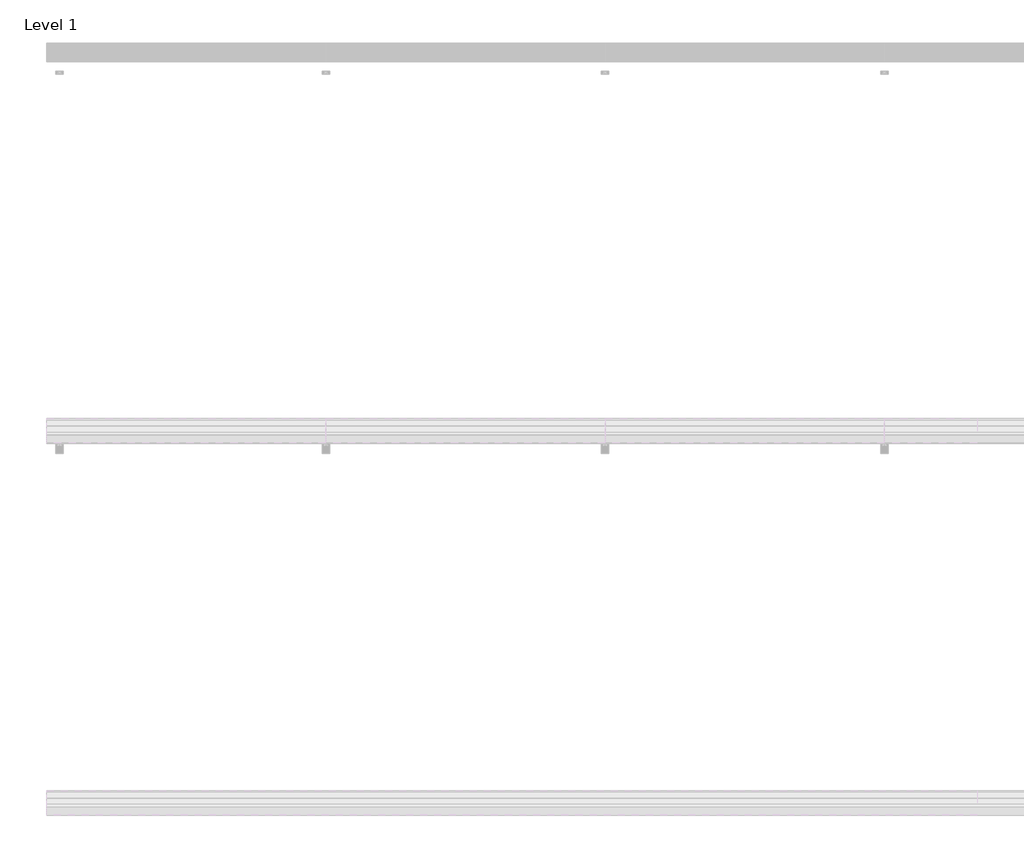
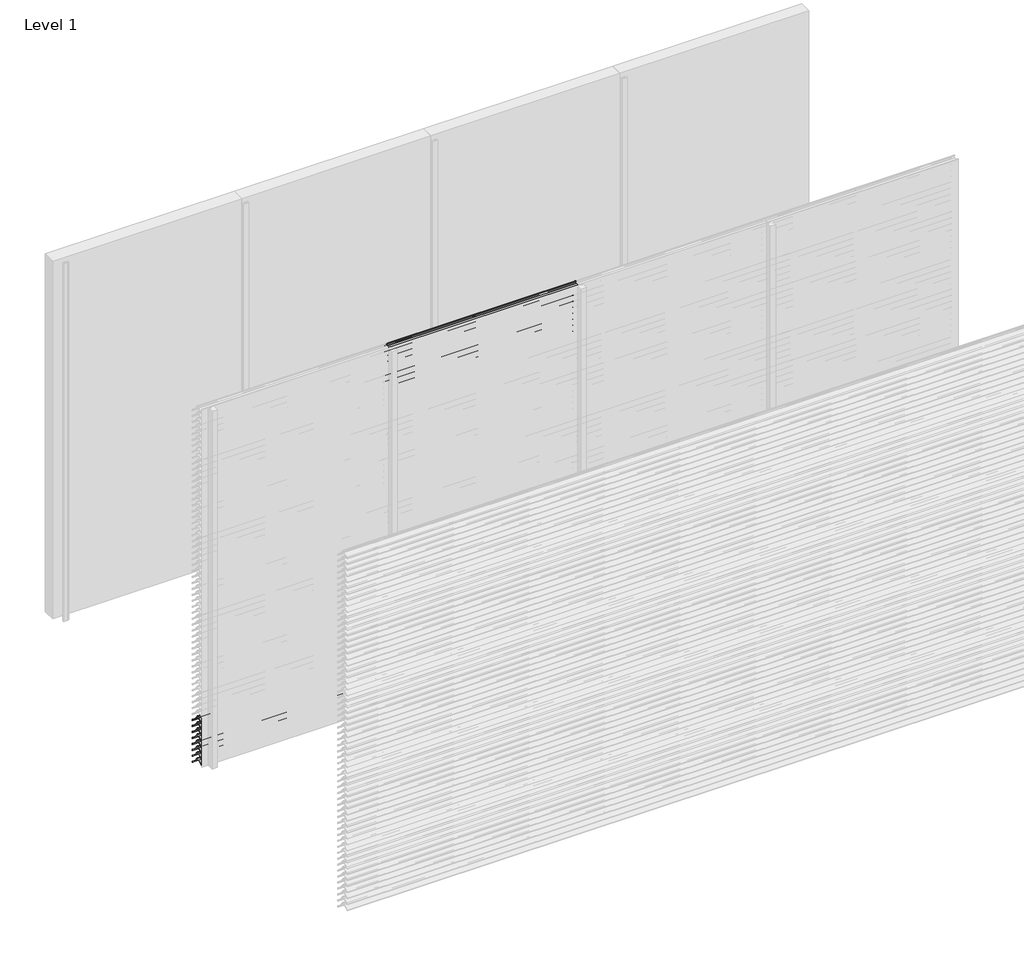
# One storey, part 78 of 173: 18 proxies.
"""IFC4 building model written with IfcOpenShell, lengths in millimetres."""

from ifc_helpers import new_model, si_unit, point, frame, frame_2d, origin, place, context, project, spatial, polyline, circle_curve, trimmed, segment, composite_curve, outline, extrude, element, save

model = new_model("IFC4")

# Units and contexts
model_context = context("Model", 3, world=origin())
ifc_project = project(units=[si_unit("LENGTHUNIT", "METRE", prefix="MILLI")], contexts=[model_context])

# Site, building, storey
site = spatial("IfcSite", under=ifc_project)
building = spatial("IfcBuilding", under=site)
storey = spatial("IfcBuildingStorey", under=building, Name="Level 1", Elevation=0.0)

# Proxies
placement = place(None, origin())
element("IfcBuildingElementProxy", 1, Name="Wall Sweeps", at=placement, inside=storey, context=model_context, shape_type="SweptSolid", body=[
    extrude(outline(composite_curve([segment(polyline([(-29998.0, 359.1474905), (-29998.0, 361.6227417)]), True, "CONTINUOUS"), segment(trimmed(circle_curve(frame_2d((-29951.2682172, 316.2200208)), 65.1557103), [point((-29998.0, 361.6227417))], [point((-29954.4014323, 381.3003524))], False, "CARTESIAN"), True, "CONTINUOUS"), segment(polyline([(-29954.4014323, 381.3003524), (-29934.8315836, 381.3003524)]), True, "CONTINUOUS"), segment(trimmed(circle_curve(frame_2d((-29732.7329489, 528.5533172)), 250.0545817), [point((-29934.8315836, 381.3003524))], [point((-29941.4452143, 390.8344583))], False, "CARTESIAN"), True, "CONTINUOUS"), segment(trimmed(circle_curve(frame_2d((-29953.2981792, 385.1737835)), 13.1352966), [point((-29941.4452143, 390.8344583))], [point((-29953.8171475, 398.298824))], True, "CARTESIAN"), True, "CONTINUOUS"), segment(polyline([(-29953.8171475, 398.298824), (-29953.8171475, 400.0)]), True, "CONTINUOUS"), segment(trimmed(circle_curve(frame_2d((-29953.2981792, 385.1737835)), 14.8352966), [point((-29953.8171475, 400.0))], [point((-29939.9637661, 391.6760487))], False, "CARTESIAN"), True, "CONTINUOUS"), segment(trimmed(circle_curve(frame_2d((-29732.7329489, 528.5533172)), 248.3545817), [point((-29939.9637661, 391.6760487))], [point((-29873.8787895, 324.2059416))], True, "CARTESIAN"), True, "CONTINUOUS"), segment(trimmed(circle_curve(frame_2d((-29883.8147537, 311.6649442)), 16.0), [point((-29873.8787895, 324.2059416))], [point((-29867.8648347, 310.4))], False, "CARTESIAN"), True, "CONTINUOUS"), segment(polyline([(-29867.8648347, 310.4), (-29869.6712069, 310.4)]), True, "CONTINUOUS"), segment(trimmed(circle_curve(frame_2d((-29883.8147537, 311.6649442)), 14.2), [point((-29869.6712069, 310.4))], [point((-29874.9518628, 322.7594998))], True, "CARTESIAN"), True, "CONTINUOUS"), segment(trimmed(circle_curve(frame_2d((-29732.7329489, 528.5533172)), 250.1545817), [point((-29874.9518628, 322.7594998))], [point((-29933.7064024, 379.6003524))], False, "CARTESIAN"), True, "CONTINUOUS"), segment(polyline([(-29933.7064024, 379.6003524), (-29954.3602632, 379.6003524)]), True, "CONTINUOUS"), segment(trimmed(circle_curve(frame_2d((-29951.2682172, 316.2200208)), 63.4557103), [point((-29954.3602632, 379.6003524))], [point((-29998.0, 359.1474905))], True, "CARTESIAN"), True, "CONTINUOUS")], self_intersect=False)), frame((0.0, 0.0, 0.0), z_axis=(1.0, 0.0, 0.0), x_axis=(0.0, 1.0, 0.0)), (0.0, 0.0, 1.0), 1500.0),
])
element("IfcBuildingElementProxy", 2, Name="Wall Sweeps", at=placement, inside=storey, context=model_context, shape_type="SweptSolid", body=[
    extrude(outline(composite_curve([segment(polyline([(-29998.0, 309.1474905), (-29998.0, 311.6227417)]), True, "CONTINUOUS"), segment(trimmed(circle_curve(frame_2d((-29951.2682172, 266.2200208)), 65.1557103), [point((-29998.0, 311.6227417))], [point((-29954.4014323, 331.3003524))], False, "CARTESIAN"), True, "CONTINUOUS"), segment(polyline([(-29954.4014323, 331.3003524), (-29934.8315836, 331.3003524)]), True, "CONTINUOUS"), segment(trimmed(circle_curve(frame_2d((-29732.7329489, 478.5533172)), 250.0545817), [point((-29934.8315836, 331.3003524))], [point((-29941.4452143, 340.8344583))], False, "CARTESIAN"), True, "CONTINUOUS"), segment(trimmed(circle_curve(frame_2d((-29953.2981792, 335.1737835)), 13.1352966), [point((-29941.4452143, 340.8344583))], [point((-29953.8171475, 348.298824))], True, "CARTESIAN"), True, "CONTINUOUS"), segment(polyline([(-29953.8171475, 348.298824), (-29953.8171475, 350.0)]), True, "CONTINUOUS"), segment(trimmed(circle_curve(frame_2d((-29953.2981792, 335.1737835)), 14.8352966), [point((-29953.8171475, 350.0))], [point((-29939.9637661, 341.6760487))], False, "CARTESIAN"), True, "CONTINUOUS"), segment(trimmed(circle_curve(frame_2d((-29732.7329489, 478.5533172)), 248.3545817), [point((-29939.9637661, 341.6760487))], [point((-29873.8787895, 274.2059416))], True, "CARTESIAN"), True, "CONTINUOUS"), segment(trimmed(circle_curve(frame_2d((-29883.8147537, 261.6649442)), 16.0), [point((-29873.8787895, 274.2059416))], [point((-29867.8648347, 260.4))], False, "CARTESIAN"), True, "CONTINUOUS"), segment(polyline([(-29867.8648347, 260.4), (-29869.6712069, 260.4)]), True, "CONTINUOUS"), segment(trimmed(circle_curve(frame_2d((-29883.8147537, 261.6649442)), 14.2), [point((-29869.6712069, 260.4))], [point((-29874.9518628, 272.7594998))], True, "CARTESIAN"), True, "CONTINUOUS"), segment(trimmed(circle_curve(frame_2d((-29732.7329489, 478.5533172)), 250.1545817), [point((-29874.9518628, 272.7594998))], [point((-29933.7064024, 329.6003524))], False, "CARTESIAN"), True, "CONTINUOUS"), segment(polyline([(-29933.7064024, 329.6003524), (-29954.3602632, 329.6003524)]), True, "CONTINUOUS"), segment(trimmed(circle_curve(frame_2d((-29951.2682172, 266.2200208)), 63.4557103), [point((-29954.3602632, 329.6003524))], [point((-29998.0, 309.1474905))], True, "CARTESIAN"), True, "CONTINUOUS")], self_intersect=False)), frame((0.0, 0.0, 0.0), z_axis=(1.0, 0.0, 0.0), x_axis=(0.0, 1.0, 0.0)), (0.0, 0.0, 1.0), 1500.0),
])
element("IfcBuildingElementProxy", 3, Name="Wall Sweeps", at=placement, inside=storey, context=model_context, shape_type="SweptSolid", body=[
    extrude(outline(composite_curve([segment(polyline([(-29998.0, 259.1474905), (-29998.0, 261.6227417)]), True, "CONTINUOUS"), segment(trimmed(circle_curve(frame_2d((-29951.2682172, 216.2200208)), 65.1557103), [point((-29998.0, 261.6227417))], [point((-29954.4014323, 281.3003524))], False, "CARTESIAN"), True, "CONTINUOUS"), segment(polyline([(-29954.4014323, 281.3003524), (-29934.8315836, 281.3003524)]), True, "CONTINUOUS"), segment(trimmed(circle_curve(frame_2d((-29732.7329489, 428.5533172)), 250.0545817), [point((-29934.8315836, 281.3003524))], [point((-29941.4452143, 290.8344583))], False, "CARTESIAN"), True, "CONTINUOUS"), segment(trimmed(circle_curve(frame_2d((-29953.2981792, 285.1737835)), 13.1352966), [point((-29941.4452143, 290.8344583))], [point((-29953.8171475, 298.298824))], True, "CARTESIAN"), True, "CONTINUOUS"), segment(polyline([(-29953.8171475, 298.298824), (-29953.8171475, 300.0)]), True, "CONTINUOUS"), segment(trimmed(circle_curve(frame_2d((-29953.2981792, 285.1737835)), 14.8352966), [point((-29953.8171475, 300.0))], [point((-29939.9637661, 291.6760487))], False, "CARTESIAN"), True, "CONTINUOUS"), segment(trimmed(circle_curve(frame_2d((-29732.7329489, 428.5533172)), 248.3545817), [point((-29939.9637661, 291.6760487))], [point((-29873.8787895, 224.2059416))], True, "CARTESIAN"), True, "CONTINUOUS"), segment(trimmed(circle_curve(frame_2d((-29883.8147537, 211.6649442)), 16.0), [point((-29873.8787895, 224.2059416))], [point((-29867.8648347, 210.4))], False, "CARTESIAN"), True, "CONTINUOUS"), segment(polyline([(-29867.8648347, 210.4), (-29869.6712069, 210.4)]), True, "CONTINUOUS"), segment(trimmed(circle_curve(frame_2d((-29883.8147537, 211.6649442)), 14.2), [point((-29869.6712069, 210.4))], [point((-29874.9518628, 222.7594998))], True, "CARTESIAN"), True, "CONTINUOUS"), segment(trimmed(circle_curve(frame_2d((-29732.7329489, 428.5533172)), 250.1545817), [point((-29874.9518628, 222.7594998))], [point((-29933.7064024, 279.6003524))], False, "CARTESIAN"), True, "CONTINUOUS"), segment(polyline([(-29933.7064024, 279.6003524), (-29954.3602632, 279.6003524)]), True, "CONTINUOUS"), segment(trimmed(circle_curve(frame_2d((-29951.2682172, 216.2200208)), 63.4557103), [point((-29954.3602632, 279.6003524))], [point((-29998.0, 259.1474905))], True, "CARTESIAN"), True, "CONTINUOUS")], self_intersect=False)), frame((0.0, 0.0, 0.0), z_axis=(1.0, 0.0, 0.0), x_axis=(0.0, 1.0, 0.0)), (0.0, 0.0, 1.0), 1500.0),
])
element("IfcBuildingElementProxy", 4, Name="Wall Sweeps", at=placement, inside=storey, context=model_context, shape_type="SweptSolid", body=[
    extrude(outline(composite_curve([segment(polyline([(-29998.0, 209.1474905), (-29998.0, 211.6227417)]), True, "CONTINUOUS"), segment(trimmed(circle_curve(frame_2d((-29951.2682172, 166.2200208)), 65.1557103), [point((-29998.0, 211.6227417))], [point((-29954.4014323, 231.3003524))], False, "CARTESIAN"), True, "CONTINUOUS"), segment(polyline([(-29954.4014323, 231.3003524), (-29934.8315836, 231.3003524)]), True, "CONTINUOUS"), segment(trimmed(circle_curve(frame_2d((-29732.7329489, 378.5533172)), 250.0545817), [point((-29934.8315836, 231.3003524))], [point((-29941.4452143, 240.8344583))], False, "CARTESIAN"), True, "CONTINUOUS"), segment(trimmed(circle_curve(frame_2d((-29953.2981792, 235.1737835)), 13.1352966), [point((-29941.4452143, 240.8344583))], [point((-29953.8171475, 248.298824))], True, "CARTESIAN"), True, "CONTINUOUS"), segment(polyline([(-29953.8171475, 248.298824), (-29953.8171475, 250.0)]), True, "CONTINUOUS"), segment(trimmed(circle_curve(frame_2d((-29953.2981792, 235.1737835)), 14.8352966), [point((-29953.8171475, 250.0))], [point((-29939.9637661, 241.6760487))], False, "CARTESIAN"), True, "CONTINUOUS"), segment(trimmed(circle_curve(frame_2d((-29732.7329489, 378.5533172)), 248.3545817), [point((-29939.9637661, 241.6760487))], [point((-29873.8787895, 174.2059416))], True, "CARTESIAN"), True, "CONTINUOUS"), segment(trimmed(circle_curve(frame_2d((-29883.8147537, 161.6649442)), 16.0), [point((-29873.8787895, 174.2059416))], [point((-29867.8648347, 160.4))], False, "CARTESIAN"), True, "CONTINUOUS"), segment(polyline([(-29867.8648347, 160.4), (-29869.6712069, 160.4)]), True, "CONTINUOUS"), segment(trimmed(circle_curve(frame_2d((-29883.8147537, 161.6649442)), 14.2), [point((-29869.6712069, 160.4))], [point((-29874.9518628, 172.7594998))], True, "CARTESIAN"), True, "CONTINUOUS"), segment(trimmed(circle_curve(frame_2d((-29732.7329489, 378.5533172)), 250.1545817), [point((-29874.9518628, 172.7594998))], [point((-29933.7064024, 229.6003524))], False, "CARTESIAN"), True, "CONTINUOUS"), segment(polyline([(-29933.7064024, 229.6003524), (-29954.3602632, 229.6003524)]), True, "CONTINUOUS"), segment(trimmed(circle_curve(frame_2d((-29951.2682172, 166.2200208)), 63.4557103), [point((-29954.3602632, 229.6003524))], [point((-29998.0, 209.1474905))], True, "CARTESIAN"), True, "CONTINUOUS")], self_intersect=False)), frame((0.0, 0.0, 0.0), z_axis=(1.0, 0.0, 0.0), x_axis=(0.0, 1.0, 0.0)), (0.0, 0.0, 1.0), 1500.0),
])
element("IfcBuildingElementProxy", 5, Name="Wall Sweeps", at=placement, inside=storey, context=model_context, shape_type="SweptSolid", body=[
    extrude(outline(composite_curve([segment(polyline([(-29998.0, 159.1474905), (-29998.0, 161.6227417)]), True, "CONTINUOUS"), segment(trimmed(circle_curve(frame_2d((-29951.2682172, 116.2200208)), 65.1557103), [point((-29998.0, 161.6227417))], [point((-29954.4014323, 181.3003524))], False, "CARTESIAN"), True, "CONTINUOUS"), segment(polyline([(-29954.4014323, 181.3003524), (-29934.8315836, 181.3003524)]), True, "CONTINUOUS"), segment(trimmed(circle_curve(frame_2d((-29732.7329489, 328.5533172)), 250.0545817), [point((-29934.8315836, 181.3003524))], [point((-29941.4452143, 190.8344583))], False, "CARTESIAN"), True, "CONTINUOUS"), segment(trimmed(circle_curve(frame_2d((-29953.2981792, 185.1737835)), 13.1352966), [point((-29941.4452143, 190.8344583))], [point((-29953.8171475, 198.298824))], True, "CARTESIAN"), True, "CONTINUOUS"), segment(polyline([(-29953.8171475, 198.298824), (-29953.8171475, 200.0)]), True, "CONTINUOUS"), segment(trimmed(circle_curve(frame_2d((-29953.2981792, 185.1737835)), 14.8352966), [point((-29953.8171475, 200.0))], [point((-29939.9637661, 191.6760487))], False, "CARTESIAN"), True, "CONTINUOUS"), segment(trimmed(circle_curve(frame_2d((-29732.7329489, 328.5533172)), 248.3545817), [point((-29939.9637661, 191.6760487))], [point((-29873.8787895, 124.2059416))], True, "CARTESIAN"), True, "CONTINUOUS"), segment(trimmed(circle_curve(frame_2d((-29883.8147537, 111.6649442)), 16.0), [point((-29873.8787895, 124.2059416))], [point((-29867.8648347, 110.4))], False, "CARTESIAN"), True, "CONTINUOUS"), segment(polyline([(-29867.8648347, 110.4), (-29869.6712069, 110.4)]), True, "CONTINUOUS"), segment(trimmed(circle_curve(frame_2d((-29883.8147537, 111.6649442)), 14.2), [point((-29869.6712069, 110.4))], [point((-29874.9518628, 122.7594998))], True, "CARTESIAN"), True, "CONTINUOUS"), segment(trimmed(circle_curve(frame_2d((-29732.7329489, 328.5533172)), 250.1545817), [point((-29874.9518628, 122.7594998))], [point((-29933.7064024, 179.6003524))], False, "CARTESIAN"), True, "CONTINUOUS"), segment(polyline([(-29933.7064024, 179.6003524), (-29954.3602632, 179.6003524)]), True, "CONTINUOUS"), segment(trimmed(circle_curve(frame_2d((-29951.2682172, 116.2200208)), 63.4557103), [point((-29954.3602632, 179.6003524))], [point((-29998.0, 159.1474905))], True, "CARTESIAN"), True, "CONTINUOUS")], self_intersect=False)), frame((0.0, 0.0, 0.0), z_axis=(1.0, 0.0, 0.0), x_axis=(0.0, 1.0, 0.0)), (0.0, 0.0, 1.0), 1500.0),
])
element("IfcBuildingElementProxy", 6, Name="Wall Sweeps", at=placement, inside=storey, context=model_context, shape_type="SweptSolid", body=[
    extrude(outline(composite_curve([segment(polyline([(-29998.0, 109.1474905), (-29998.0, 111.6227417)]), True, "CONTINUOUS"), segment(trimmed(circle_curve(frame_2d((-29951.2682172, 66.2200208)), 65.1557103), [point((-29998.0, 111.6227417))], [point((-29954.4014323, 131.3003524))], False, "CARTESIAN"), True, "CONTINUOUS"), segment(polyline([(-29954.4014323, 131.3003524), (-29934.8315836, 131.3003524)]), True, "CONTINUOUS"), segment(trimmed(circle_curve(frame_2d((-29732.7329489, 278.5533172)), 250.0545817), [point((-29934.8315836, 131.3003524))], [point((-29941.4452143, 140.8344583))], False, "CARTESIAN"), True, "CONTINUOUS"), segment(trimmed(circle_curve(frame_2d((-29953.2981792, 135.1737835)), 13.1352966), [point((-29941.4452143, 140.8344583))], [point((-29953.8171475, 148.298824))], True, "CARTESIAN"), True, "CONTINUOUS"), segment(polyline([(-29953.8171475, 148.298824), (-29953.8171475, 150.0)]), True, "CONTINUOUS"), segment(trimmed(circle_curve(frame_2d((-29953.2981792, 135.1737835)), 14.8352966), [point((-29953.8171475, 150.0))], [point((-29939.9637661, 141.6760487))], False, "CARTESIAN"), True, "CONTINUOUS"), segment(trimmed(circle_curve(frame_2d((-29732.7329489, 278.5533172)), 248.3545817), [point((-29939.9637661, 141.6760487))], [point((-29873.8787895, 74.2059416))], True, "CARTESIAN"), True, "CONTINUOUS"), segment(trimmed(circle_curve(frame_2d((-29883.8147537, 61.6649442)), 16.0), [point((-29873.8787895, 74.2059416))], [point((-29867.8648347, 60.4))], False, "CARTESIAN"), True, "CONTINUOUS"), segment(polyline([(-29867.8648347, 60.4), (-29869.6712069, 60.4)]), True, "CONTINUOUS"), segment(trimmed(circle_curve(frame_2d((-29883.8147537, 61.6649442)), 14.2), [point((-29869.6712069, 60.4))], [point((-29874.9518628, 72.7594998))], True, "CARTESIAN"), True, "CONTINUOUS"), segment(trimmed(circle_curve(frame_2d((-29732.7329489, 278.5533172)), 250.1545817), [point((-29874.9518628, 72.7594998))], [point((-29933.7064024, 129.6003524))], False, "CARTESIAN"), True, "CONTINUOUS"), segment(polyline([(-29933.7064024, 129.6003524), (-29954.3602632, 129.6003524)]), True, "CONTINUOUS"), segment(trimmed(circle_curve(frame_2d((-29951.2682172, 66.2200208)), 63.4557103), [point((-29954.3602632, 129.6003524))], [point((-29998.0, 109.1474905))], True, "CARTESIAN"), True, "CONTINUOUS")], self_intersect=False)), frame((0.0, 0.0, 0.0), z_axis=(1.0, 0.0, 0.0), x_axis=(0.0, 1.0, 0.0)), (0.0, 0.0, 1.0), 1500.0),
])
element("IfcBuildingElementProxy", 7, Name="Wall Sweeps", at=placement, inside=storey, context=model_context, shape_type="SweptSolid", body=[
    extrude(outline(composite_curve([segment(polyline([(-29998.0, 59.1474905), (-29998.0, 61.6227417)]), True, "CONTINUOUS"), segment(trimmed(circle_curve(frame_2d((-29951.2682172, 16.2200208)), 65.1557103), [point((-29998.0, 61.6227417))], [point((-29954.4014323, 81.3003524))], False, "CARTESIAN"), True, "CONTINUOUS"), segment(polyline([(-29954.4014323, 81.3003524), (-29934.8315836, 81.3003524)]), True, "CONTINUOUS"), segment(trimmed(circle_curve(frame_2d((-29732.7329489, 228.5533172)), 250.0545817), [point((-29934.8315836, 81.3003524))], [point((-29941.4452143, 90.8344583))], False, "CARTESIAN"), True, "CONTINUOUS"), segment(trimmed(circle_curve(frame_2d((-29953.2981792, 85.1737835)), 13.1352966), [point((-29941.4452143, 90.8344583))], [point((-29953.8171475, 98.298824))], True, "CARTESIAN"), True, "CONTINUOUS"), segment(polyline([(-29953.8171475, 98.298824), (-29953.8171475, 100.0)]), True, "CONTINUOUS"), segment(trimmed(circle_curve(frame_2d((-29953.2981792, 85.1737835)), 14.8352966), [point((-29953.8171475, 100.0))], [point((-29939.9637661, 91.6760487))], False, "CARTESIAN"), True, "CONTINUOUS"), segment(trimmed(circle_curve(frame_2d((-29732.7329489, 228.5533172)), 248.3545817), [point((-29939.9637661, 91.6760487))], [point((-29873.8787895, 24.2059416))], True, "CARTESIAN"), True, "CONTINUOUS"), segment(trimmed(circle_curve(frame_2d((-29883.8147537, 11.6649442)), 16.0), [point((-29873.8787895, 24.2059416))], [point((-29867.8648347, 10.4))], False, "CARTESIAN"), True, "CONTINUOUS"), segment(polyline([(-29867.8648347, 10.4), (-29869.6712069, 10.4)]), True, "CONTINUOUS"), segment(trimmed(circle_curve(frame_2d((-29883.8147537, 11.6649442)), 14.2), [point((-29869.6712069, 10.4))], [point((-29874.9518628, 22.7594998))], True, "CARTESIAN"), True, "CONTINUOUS"), segment(trimmed(circle_curve(frame_2d((-29732.7329489, 228.5533172)), 250.1545817), [point((-29874.9518628, 22.7594998))], [point((-29933.7064024, 79.6003524))], False, "CARTESIAN"), True, "CONTINUOUS"), segment(polyline([(-29933.7064024, 79.6003524), (-29954.3602632, 79.6003524)]), True, "CONTINUOUS"), segment(trimmed(circle_curve(frame_2d((-29951.2682172, 16.2200208)), 63.4557103), [point((-29954.3602632, 79.6003524))], [point((-29998.0, 59.1474905))], True, "CARTESIAN"), True, "CONTINUOUS")], self_intersect=False)), frame((0.0, 0.0, 0.0), z_axis=(1.0, 0.0, 0.0), x_axis=(0.0, 1.0, 0.0)), (0.0, 0.0, 1.0), 1500.0),
])
element("IfcBuildingElementProxy", 8, Name="Wall Sweeps", at=placement, inside=storey, context=model_context, shape_type="SweptSolid", body=[
    extrude(outline(composite_curve([segment(polyline([(-29998.0, 9.1474905), (-29998.0, 11.6227417)]), True, "CONTINUOUS"), segment(trimmed(circle_curve(frame_2d((-29951.2682172, -33.7799792)), 65.1557103), [point((-29998.0, 11.6227417))], [point((-29954.4014323, 31.3003524))], False, "CARTESIAN"), True, "CONTINUOUS"), segment(polyline([(-29954.4014323, 31.3003524), (-29934.8315836, 31.3003524)]), True, "CONTINUOUS"), segment(trimmed(circle_curve(frame_2d((-29732.7329489, 178.5533172)), 250.0545817), [point((-29934.8315836, 31.3003524))], [point((-29941.4452143, 40.8344583))], False, "CARTESIAN"), True, "CONTINUOUS"), segment(trimmed(circle_curve(frame_2d((-29953.2981792, 35.1737835)), 13.1352966), [point((-29941.4452143, 40.8344583))], [point((-29953.8171475, 48.298824))], True, "CARTESIAN"), True, "CONTINUOUS"), segment(polyline([(-29953.8171475, 48.298824), (-29953.8171475, 50.0)]), True, "CONTINUOUS"), segment(trimmed(circle_curve(frame_2d((-29953.2981792, 35.1737835)), 14.8352966), [point((-29953.8171475, 50.0))], [point((-29939.9637661, 41.6760487))], False, "CARTESIAN"), True, "CONTINUOUS"), segment(trimmed(circle_curve(frame_2d((-29732.7329489, 178.5533172)), 248.3545817), [point((-29939.9637661, 41.6760487))], [point((-29873.8787895, -25.7940584))], True, "CARTESIAN"), True, "CONTINUOUS"), segment(trimmed(circle_curve(frame_2d((-29883.8147537, -38.3350558)), 16.0), [point((-29873.8787895, -25.7940584))], [point((-29867.8648347, -39.6))], False, "CARTESIAN"), True, "CONTINUOUS"), segment(polyline([(-29867.8648347, -39.6), (-29869.6712069, -39.6)]), True, "CONTINUOUS"), segment(trimmed(circle_curve(frame_2d((-29883.8147537, -38.3350558)), 14.2), [point((-29869.6712069, -39.6))], [point((-29874.9518628, -27.2405002))], True, "CARTESIAN"), True, "CONTINUOUS"), segment(trimmed(circle_curve(frame_2d((-29732.7329489, 178.5533172)), 250.1545817), [point((-29874.9518628, -27.2405002))], [point((-29933.7064024, 29.6003524))], False, "CARTESIAN"), True, "CONTINUOUS"), segment(polyline([(-29933.7064024, 29.6003524), (-29954.3602632, 29.6003524)]), True, "CONTINUOUS"), segment(trimmed(circle_curve(frame_2d((-29951.2682172, -33.7799792)), 63.4557103), [point((-29954.3602632, 29.6003524))], [point((-29998.0, 9.1474905))], True, "CARTESIAN"), True, "CONTINUOUS")], self_intersect=False)), frame((0.0, 0.0, 0.0), z_axis=(1.0, 0.0, 0.0), x_axis=(0.0, 1.0, 0.0)), (0.0, 0.0, 1.0), 1500.0),
])
element("IfcBuildingElementProxy", 9, Name="Wall Sweeps", at=placement, inside=storey, context=model_context, shape_type="SweptSolid", body=[
    extrude(outline(composite_curve([segment(polyline([(-29998.0, 2959.1474905), (-29998.0, 2961.6227417)]), True, "CONTINUOUS"), segment(trimmed(circle_curve(frame_2d((-29951.2682172, 2916.2200208)), 65.1557103), [point((-29998.0, 2961.6227417))], [point((-29954.4014323, 2981.3003524))], False, "CARTESIAN"), True, "CONTINUOUS"), segment(polyline([(-29954.4014323, 2981.3003524), (-29934.8315836, 2981.3003524)]), True, "CONTINUOUS"), segment(trimmed(circle_curve(frame_2d((-29732.7329489, 3128.5533172)), 250.0545817), [point((-29934.8315836, 2981.3003524))], [point((-29941.4452143, 2990.8344583))], False, "CARTESIAN"), True, "CONTINUOUS"), segment(trimmed(circle_curve(frame_2d((-29953.2981792, 2985.1737835)), 13.1352966), [point((-29941.4452143, 2990.8344583))], [point((-29953.8171475, 2998.298824))], True, "CARTESIAN"), True, "CONTINUOUS"), segment(polyline([(-29953.8171475, 2998.298824), (-29953.8171475, 3000.0)]), True, "CONTINUOUS"), segment(trimmed(circle_curve(frame_2d((-29953.2981792, 2985.1737835)), 14.8352966), [point((-29953.8171475, 3000.0))], [point((-29939.9637661, 2991.6760487))], False, "CARTESIAN"), True, "CONTINUOUS"), segment(trimmed(circle_curve(frame_2d((-29732.7329489, 3128.5533172)), 248.3545817), [point((-29939.9637661, 2991.6760487))], [point((-29873.8787895, 2924.2059416))], True, "CARTESIAN"), True, "CONTINUOUS"), segment(trimmed(circle_curve(frame_2d((-29883.8147537, 2911.6649442)), 16.0), [point((-29873.8787895, 2924.2059416))], [point((-29867.8648347, 2910.4))], False, "CARTESIAN"), True, "CONTINUOUS"), segment(polyline([(-29867.8648347, 2910.4), (-29869.6712069, 2910.4)]), True, "CONTINUOUS"), segment(trimmed(circle_curve(frame_2d((-29883.8147537, 2911.6649442)), 14.2), [point((-29869.6712069, 2910.4))], [point((-29874.9518628, 2922.7594998))], True, "CARTESIAN"), True, "CONTINUOUS"), segment(trimmed(circle_curve(frame_2d((-29732.7329489, 3128.5533172)), 250.1545817), [point((-29874.9518628, 2922.7594998))], [point((-29933.7064024, 2979.6003524))], False, "CARTESIAN"), True, "CONTINUOUS"), segment(polyline([(-29933.7064024, 2979.6003524), (-29954.3602632, 2979.6003524)]), True, "CONTINUOUS"), segment(trimmed(circle_curve(frame_2d((-29951.2682172, 2916.2200208)), 63.4557103), [point((-29954.3602632, 2979.6003524))], [point((-29998.0, 2959.1474905))], True, "CARTESIAN"), True, "CONTINUOUS")], self_intersect=False)), frame((1500.0, 0.0, 0.0), z_axis=(1.0, 0.0, 0.0), x_axis=(0.0, 1.0, 0.0)), (0.0, 0.0, 1.0), 1500.0),
])
element("IfcBuildingElementProxy", 10, Name="Wall Sweeps", at=placement, inside=storey, context=model_context, shape_type="SweptSolid", body=[
    extrude(outline(composite_curve([segment(polyline([(-29998.0, 2909.1474905), (-29998.0, 2911.6227417)]), True, "CONTINUOUS"), segment(trimmed(circle_curve(frame_2d((-29951.2682172, 2866.2200208)), 65.1557103), [point((-29998.0, 2911.6227417))], [point((-29954.4014323, 2931.3003524))], False, "CARTESIAN"), True, "CONTINUOUS"), segment(polyline([(-29954.4014323, 2931.3003524), (-29934.8315836, 2931.3003524)]), True, "CONTINUOUS"), segment(trimmed(circle_curve(frame_2d((-29732.7329489, 3078.5533172)), 250.0545817), [point((-29934.8315836, 2931.3003524))], [point((-29941.4452143, 2940.8344583))], False, "CARTESIAN"), True, "CONTINUOUS"), segment(trimmed(circle_curve(frame_2d((-29953.2981792, 2935.1737835)), 13.1352966), [point((-29941.4452143, 2940.8344583))], [point((-29953.8171475, 2948.298824))], True, "CARTESIAN"), True, "CONTINUOUS"), segment(polyline([(-29953.8171475, 2948.298824), (-29953.8171475, 2950.0)]), True, "CONTINUOUS"), segment(trimmed(circle_curve(frame_2d((-29953.2981792, 2935.1737835)), 14.8352966), [point((-29953.8171475, 2950.0))], [point((-29939.9637661, 2941.6760487))], False, "CARTESIAN"), True, "CONTINUOUS"), segment(trimmed(circle_curve(frame_2d((-29732.7329489, 3078.5533172)), 248.3545817), [point((-29939.9637661, 2941.6760487))], [point((-29873.8787895, 2874.2059416))], True, "CARTESIAN"), True, "CONTINUOUS"), segment(trimmed(circle_curve(frame_2d((-29883.8147537, 2861.6649442)), 16.0), [point((-29873.8787895, 2874.2059416))], [point((-29867.8648347, 2860.4))], False, "CARTESIAN"), True, "CONTINUOUS"), segment(polyline([(-29867.8648347, 2860.4), (-29869.6712069, 2860.4)]), True, "CONTINUOUS"), segment(trimmed(circle_curve(frame_2d((-29883.8147537, 2861.6649442)), 14.2), [point((-29869.6712069, 2860.4))], [point((-29874.9518628, 2872.7594998))], True, "CARTESIAN"), True, "CONTINUOUS"), segment(trimmed(circle_curve(frame_2d((-29732.7329489, 3078.5533172)), 250.1545817), [point((-29874.9518628, 2872.7594998))], [point((-29933.7064024, 2929.6003524))], False, "CARTESIAN"), True, "CONTINUOUS"), segment(polyline([(-29933.7064024, 2929.6003524), (-29954.3602632, 2929.6003524)]), True, "CONTINUOUS"), segment(trimmed(circle_curve(frame_2d((-29951.2682172, 2866.2200208)), 63.4557103), [point((-29954.3602632, 2929.6003524))], [point((-29998.0, 2909.1474905))], True, "CARTESIAN"), True, "CONTINUOUS")], self_intersect=False)), frame((1500.0, 0.0, 0.0), z_axis=(1.0, 0.0, 0.0), x_axis=(0.0, 1.0, 0.0)), (0.0, 0.0, 1.0), 1500.0),
])
element("IfcBuildingElementProxy", 11, Name="Wall Sweeps", at=placement, inside=storey, context=model_context, shape_type="SweptSolid", body=[
    extrude(outline(composite_curve([segment(polyline([(-29998.0, 2859.1474905), (-29998.0, 2861.6227417)]), True, "CONTINUOUS"), segment(trimmed(circle_curve(frame_2d((-29951.2682172, 2816.2200208)), 65.1557103), [point((-29998.0, 2861.6227417))], [point((-29954.4014323, 2881.3003524))], False, "CARTESIAN"), True, "CONTINUOUS"), segment(polyline([(-29954.4014323, 2881.3003524), (-29934.8315836, 2881.3003524)]), True, "CONTINUOUS"), segment(trimmed(circle_curve(frame_2d((-29732.7329489, 3028.5533172)), 250.0545817), [point((-29934.8315836, 2881.3003524))], [point((-29941.4452143, 2890.8344583))], False, "CARTESIAN"), True, "CONTINUOUS"), segment(trimmed(circle_curve(frame_2d((-29953.2981792, 2885.1737835)), 13.1352966), [point((-29941.4452143, 2890.8344583))], [point((-29953.8171475, 2898.298824))], True, "CARTESIAN"), True, "CONTINUOUS"), segment(polyline([(-29953.8171475, 2898.298824), (-29953.8171475, 2900.0)]), True, "CONTINUOUS"), segment(trimmed(circle_curve(frame_2d((-29953.2981792, 2885.1737835)), 14.8352966), [point((-29953.8171475, 2900.0))], [point((-29939.9637661, 2891.6760487))], False, "CARTESIAN"), True, "CONTINUOUS"), segment(trimmed(circle_curve(frame_2d((-29732.7329489, 3028.5533172)), 248.3545817), [point((-29939.9637661, 2891.6760487))], [point((-29873.8787895, 2824.2059416))], True, "CARTESIAN"), True, "CONTINUOUS"), segment(trimmed(circle_curve(frame_2d((-29883.8147537, 2811.6649442)), 16.0), [point((-29873.8787895, 2824.2059416))], [point((-29867.8648347, 2810.4))], False, "CARTESIAN"), True, "CONTINUOUS"), segment(polyline([(-29867.8648347, 2810.4), (-29869.6712069, 2810.4)]), True, "CONTINUOUS"), segment(trimmed(circle_curve(frame_2d((-29883.8147537, 2811.6649442)), 14.2), [point((-29869.6712069, 2810.4))], [point((-29874.9518628, 2822.7594998))], True, "CARTESIAN"), True, "CONTINUOUS"), segment(trimmed(circle_curve(frame_2d((-29732.7329489, 3028.5533172)), 250.1545817), [point((-29874.9518628, 2822.7594998))], [point((-29933.7064024, 2879.6003524))], False, "CARTESIAN"), True, "CONTINUOUS"), segment(polyline([(-29933.7064024, 2879.6003524), (-29954.3602632, 2879.6003524)]), True, "CONTINUOUS"), segment(trimmed(circle_curve(frame_2d((-29951.2682172, 2816.2200208)), 63.4557103), [point((-29954.3602632, 2879.6003524))], [point((-29998.0, 2859.1474905))], True, "CARTESIAN"), True, "CONTINUOUS")], self_intersect=False)), frame((1500.0, 0.0, 0.0), z_axis=(1.0, 0.0, 0.0), x_axis=(0.0, 1.0, 0.0)), (0.0, 0.0, 1.0), 1500.0),
])
element("IfcBuildingElementProxy", 12, Name="Wall Sweeps", at=placement, inside=storey, context=model_context, shape_type="SweptSolid", body=[
    extrude(outline(composite_curve([segment(polyline([(-29998.0, 2809.1474905), (-29998.0, 2811.6227417)]), True, "CONTINUOUS"), segment(trimmed(circle_curve(frame_2d((-29951.2682172, 2766.2200208)), 65.1557103), [point((-29998.0, 2811.6227417))], [point((-29954.4014323, 2831.3003524))], False, "CARTESIAN"), True, "CONTINUOUS"), segment(polyline([(-29954.4014323, 2831.3003524), (-29934.8315836, 2831.3003524)]), True, "CONTINUOUS"), segment(trimmed(circle_curve(frame_2d((-29732.7329489, 2978.5533172)), 250.0545817), [point((-29934.8315836, 2831.3003524))], [point((-29941.4452143, 2840.8344583))], False, "CARTESIAN"), True, "CONTINUOUS"), segment(trimmed(circle_curve(frame_2d((-29953.2981792, 2835.1737835)), 13.1352966), [point((-29941.4452143, 2840.8344583))], [point((-29953.8171475, 2848.298824))], True, "CARTESIAN"), True, "CONTINUOUS"), segment(polyline([(-29953.8171475, 2848.298824), (-29953.8171475, 2850.0)]), True, "CONTINUOUS"), segment(trimmed(circle_curve(frame_2d((-29953.2981792, 2835.1737835)), 14.8352966), [point((-29953.8171475, 2850.0))], [point((-29939.9637661, 2841.6760487))], False, "CARTESIAN"), True, "CONTINUOUS"), segment(trimmed(circle_curve(frame_2d((-29732.7329489, 2978.5533172)), 248.3545817), [point((-29939.9637661, 2841.6760487))], [point((-29873.8787895, 2774.2059416))], True, "CARTESIAN"), True, "CONTINUOUS"), segment(trimmed(circle_curve(frame_2d((-29883.8147537, 2761.6649442)), 16.0), [point((-29873.8787895, 2774.2059416))], [point((-29867.8648347, 2760.4))], False, "CARTESIAN"), True, "CONTINUOUS"), segment(polyline([(-29867.8648347, 2760.4), (-29869.6712069, 2760.4)]), True, "CONTINUOUS"), segment(trimmed(circle_curve(frame_2d((-29883.8147537, 2761.6649442)), 14.2), [point((-29869.6712069, 2760.4))], [point((-29874.9518628, 2772.7594998))], True, "CARTESIAN"), True, "CONTINUOUS"), segment(trimmed(circle_curve(frame_2d((-29732.7329489, 2978.5533172)), 250.1545817), [point((-29874.9518628, 2772.7594998))], [point((-29933.7064024, 2829.6003524))], False, "CARTESIAN"), True, "CONTINUOUS"), segment(polyline([(-29933.7064024, 2829.6003524), (-29954.3602632, 2829.6003524)]), True, "CONTINUOUS"), segment(trimmed(circle_curve(frame_2d((-29951.2682172, 2766.2200208)), 63.4557103), [point((-29954.3602632, 2829.6003524))], [point((-29998.0, 2809.1474905))], True, "CARTESIAN"), True, "CONTINUOUS")], self_intersect=False)), frame((1500.0, 0.0, 0.0), z_axis=(1.0, 0.0, 0.0), x_axis=(0.0, 1.0, 0.0)), (0.0, 0.0, 1.0), 1500.0),
])
element("IfcBuildingElementProxy", 13, Name="Wall Sweeps", at=placement, inside=storey, context=model_context, shape_type="SweptSolid", body=[
    extrude(outline(composite_curve([segment(polyline([(-29998.0, 2759.1474905), (-29998.0, 2761.6227417)]), True, "CONTINUOUS"), segment(trimmed(circle_curve(frame_2d((-29951.2682172, 2716.2200208)), 65.1557103), [point((-29998.0, 2761.6227417))], [point((-29954.4014323, 2781.3003524))], False, "CARTESIAN"), True, "CONTINUOUS"), segment(polyline([(-29954.4014323, 2781.3003524), (-29934.8315836, 2781.3003524)]), True, "CONTINUOUS"), segment(trimmed(circle_curve(frame_2d((-29732.7329489, 2928.5533172)), 250.0545817), [point((-29934.8315836, 2781.3003524))], [point((-29941.4452143, 2790.8344583))], False, "CARTESIAN"), True, "CONTINUOUS"), segment(trimmed(circle_curve(frame_2d((-29953.2981792, 2785.1737835)), 13.1352966), [point((-29941.4452143, 2790.8344583))], [point((-29953.8171475, 2798.298824))], True, "CARTESIAN"), True, "CONTINUOUS"), segment(polyline([(-29953.8171475, 2798.298824), (-29953.8171475, 2800.0)]), True, "CONTINUOUS"), segment(trimmed(circle_curve(frame_2d((-29953.2981792, 2785.1737835)), 14.8352966), [point((-29953.8171475, 2800.0))], [point((-29939.9637661, 2791.6760487))], False, "CARTESIAN"), True, "CONTINUOUS"), segment(trimmed(circle_curve(frame_2d((-29732.7329489, 2928.5533172)), 248.3545817), [point((-29939.9637661, 2791.6760487))], [point((-29873.8787895, 2724.2059416))], True, "CARTESIAN"), True, "CONTINUOUS"), segment(trimmed(circle_curve(frame_2d((-29883.8147537, 2711.6649442)), 16.0), [point((-29873.8787895, 2724.2059416))], [point((-29867.8648347, 2710.4))], False, "CARTESIAN"), True, "CONTINUOUS"), segment(polyline([(-29867.8648347, 2710.4), (-29869.6712069, 2710.4)]), True, "CONTINUOUS"), segment(trimmed(circle_curve(frame_2d((-29883.8147537, 2711.6649442)), 14.2), [point((-29869.6712069, 2710.4))], [point((-29874.9518628, 2722.7594998))], True, "CARTESIAN"), True, "CONTINUOUS"), segment(trimmed(circle_curve(frame_2d((-29732.7329489, 2928.5533172)), 250.1545817), [point((-29874.9518628, 2722.7594998))], [point((-29933.7064024, 2779.6003524))], False, "CARTESIAN"), True, "CONTINUOUS"), segment(polyline([(-29933.7064024, 2779.6003524), (-29954.3602632, 2779.6003524)]), True, "CONTINUOUS"), segment(trimmed(circle_curve(frame_2d((-29951.2682172, 2716.2200208)), 63.4557103), [point((-29954.3602632, 2779.6003524))], [point((-29998.0, 2759.1474905))], True, "CARTESIAN"), True, "CONTINUOUS")], self_intersect=False)), frame((1500.0, 0.0, 0.0), z_axis=(1.0, 0.0, 0.0), x_axis=(0.0, 1.0, 0.0)), (0.0, 0.0, 1.0), 1500.0),
])
element("IfcBuildingElementProxy", 14, Name="Wall Sweeps", at=placement, inside=storey, context=model_context, shape_type="SweptSolid", body=[
    extrude(outline(composite_curve([segment(polyline([(-29998.0, 2709.1474905), (-29998.0, 2711.6227417)]), True, "CONTINUOUS"), segment(trimmed(circle_curve(frame_2d((-29951.2682172, 2666.2200208)), 65.1557103), [point((-29998.0, 2711.6227417))], [point((-29954.4014323, 2731.3003524))], False, "CARTESIAN"), True, "CONTINUOUS"), segment(polyline([(-29954.4014323, 2731.3003524), (-29934.8315836, 2731.3003524)]), True, "CONTINUOUS"), segment(trimmed(circle_curve(frame_2d((-29732.7329489, 2878.5533172)), 250.0545817), [point((-29934.8315836, 2731.3003524))], [point((-29941.4452143, 2740.8344583))], False, "CARTESIAN"), True, "CONTINUOUS"), segment(trimmed(circle_curve(frame_2d((-29953.2981792, 2735.1737835)), 13.1352966), [point((-29941.4452143, 2740.8344583))], [point((-29953.8171475, 2748.298824))], True, "CARTESIAN"), True, "CONTINUOUS"), segment(polyline([(-29953.8171475, 2748.298824), (-29953.8171475, 2750.0)]), True, "CONTINUOUS"), segment(trimmed(circle_curve(frame_2d((-29953.2981792, 2735.1737835)), 14.8352966), [point((-29953.8171475, 2750.0))], [point((-29939.9637661, 2741.6760487))], False, "CARTESIAN"), True, "CONTINUOUS"), segment(trimmed(circle_curve(frame_2d((-29732.7329489, 2878.5533172)), 248.3545817), [point((-29939.9637661, 2741.6760487))], [point((-29873.8787895, 2674.2059416))], True, "CARTESIAN"), True, "CONTINUOUS"), segment(trimmed(circle_curve(frame_2d((-29883.8147537, 2661.6649442)), 16.0), [point((-29873.8787895, 2674.2059416))], [point((-29867.8648347, 2660.4))], False, "CARTESIAN"), True, "CONTINUOUS"), segment(polyline([(-29867.8648347, 2660.4), (-29869.6712069, 2660.4)]), True, "CONTINUOUS"), segment(trimmed(circle_curve(frame_2d((-29883.8147537, 2661.6649442)), 14.2), [point((-29869.6712069, 2660.4))], [point((-29874.9518628, 2672.7594998))], True, "CARTESIAN"), True, "CONTINUOUS"), segment(trimmed(circle_curve(frame_2d((-29732.7329489, 2878.5533172)), 250.1545817), [point((-29874.9518628, 2672.7594998))], [point((-29933.7064024, 2729.6003524))], False, "CARTESIAN"), True, "CONTINUOUS"), segment(polyline([(-29933.7064024, 2729.6003524), (-29954.3602632, 2729.6003524)]), True, "CONTINUOUS"), segment(trimmed(circle_curve(frame_2d((-29951.2682172, 2666.2200208)), 63.4557103), [point((-29954.3602632, 2729.6003524))], [point((-29998.0, 2709.1474905))], True, "CARTESIAN"), True, "CONTINUOUS")], self_intersect=False)), frame((1500.0, 0.0, 0.0), z_axis=(1.0, 0.0, 0.0), x_axis=(0.0, 1.0, 0.0)), (0.0, 0.0, 1.0), 1500.0),
])
element("IfcBuildingElementProxy", 15, Name="Wall Sweeps", at=placement, inside=storey, context=model_context, shape_type="SweptSolid", body=[
    extrude(outline(composite_curve([segment(polyline([(-29998.0, 2659.1474905), (-29998.0, 2661.6227417)]), True, "CONTINUOUS"), segment(trimmed(circle_curve(frame_2d((-29951.2682172, 2616.2200208)), 65.1557103), [point((-29998.0, 2661.6227417))], [point((-29954.4014323, 2681.3003524))], False, "CARTESIAN"), True, "CONTINUOUS"), segment(polyline([(-29954.4014323, 2681.3003524), (-29934.8315836, 2681.3003524)]), True, "CONTINUOUS"), segment(trimmed(circle_curve(frame_2d((-29732.7329489, 2828.5533172)), 250.0545817), [point((-29934.8315836, 2681.3003524))], [point((-29941.4452143, 2690.8344583))], False, "CARTESIAN"), True, "CONTINUOUS"), segment(trimmed(circle_curve(frame_2d((-29953.2981792, 2685.1737835)), 13.1352966), [point((-29941.4452143, 2690.8344583))], [point((-29953.8171475, 2698.298824))], True, "CARTESIAN"), True, "CONTINUOUS"), segment(polyline([(-29953.8171475, 2698.298824), (-29953.8171475, 2700.0)]), True, "CONTINUOUS"), segment(trimmed(circle_curve(frame_2d((-29953.2981792, 2685.1737835)), 14.8352966), [point((-29953.8171475, 2700.0))], [point((-29939.9637661, 2691.6760487))], False, "CARTESIAN"), True, "CONTINUOUS"), segment(trimmed(circle_curve(frame_2d((-29732.7329489, 2828.5533172)), 248.3545817), [point((-29939.9637661, 2691.6760487))], [point((-29873.8787895, 2624.2059416))], True, "CARTESIAN"), True, "CONTINUOUS"), segment(trimmed(circle_curve(frame_2d((-29883.8147537, 2611.6649442)), 16.0), [point((-29873.8787895, 2624.2059416))], [point((-29867.8648347, 2610.4))], False, "CARTESIAN"), True, "CONTINUOUS"), segment(polyline([(-29867.8648347, 2610.4), (-29869.6712069, 2610.4)]), True, "CONTINUOUS"), segment(trimmed(circle_curve(frame_2d((-29883.8147537, 2611.6649442)), 14.2), [point((-29869.6712069, 2610.4))], [point((-29874.9518628, 2622.7594998))], True, "CARTESIAN"), True, "CONTINUOUS"), segment(trimmed(circle_curve(frame_2d((-29732.7329489, 2828.5533172)), 250.1545817), [point((-29874.9518628, 2622.7594998))], [point((-29933.7064024, 2679.6003524))], False, "CARTESIAN"), True, "CONTINUOUS"), segment(polyline([(-29933.7064024, 2679.6003524), (-29954.3602632, 2679.6003524)]), True, "CONTINUOUS"), segment(trimmed(circle_curve(frame_2d((-29951.2682172, 2616.2200208)), 63.4557103), [point((-29954.3602632, 2679.6003524))], [point((-29998.0, 2659.1474905))], True, "CARTESIAN"), True, "CONTINUOUS")], self_intersect=False)), frame((1500.0, 0.0, 0.0), z_axis=(1.0, 0.0, 0.0), x_axis=(0.0, 1.0, 0.0)), (0.0, 0.0, 1.0), 1500.0),
])
element("IfcBuildingElementProxy", 16, Name="Wall Sweeps", at=placement, inside=storey, context=model_context, shape_type="SweptSolid", body=[
    extrude(outline(composite_curve([segment(polyline([(-29998.0, 2609.1474905), (-29998.0, 2611.6227417)]), True, "CONTINUOUS"), segment(trimmed(circle_curve(frame_2d((-29951.2682172, 2566.2200208)), 65.1557103), [point((-29998.0, 2611.6227417))], [point((-29954.4014323, 2631.3003524))], False, "CARTESIAN"), True, "CONTINUOUS"), segment(polyline([(-29954.4014323, 2631.3003524), (-29934.8315836, 2631.3003524)]), True, "CONTINUOUS"), segment(trimmed(circle_curve(frame_2d((-29732.7329489, 2778.5533172)), 250.0545817), [point((-29934.8315836, 2631.3003524))], [point((-29941.4452143, 2640.8344583))], False, "CARTESIAN"), True, "CONTINUOUS"), segment(trimmed(circle_curve(frame_2d((-29953.2981792, 2635.1737835)), 13.1352966), [point((-29941.4452143, 2640.8344583))], [point((-29953.8171475, 2648.298824))], True, "CARTESIAN"), True, "CONTINUOUS"), segment(polyline([(-29953.8171475, 2648.298824), (-29953.8171475, 2650.0)]), True, "CONTINUOUS"), segment(trimmed(circle_curve(frame_2d((-29953.2981792, 2635.1737835)), 14.8352966), [point((-29953.8171475, 2650.0))], [point((-29939.9637661, 2641.6760487))], False, "CARTESIAN"), True, "CONTINUOUS"), segment(trimmed(circle_curve(frame_2d((-29732.7329489, 2778.5533172)), 248.3545817), [point((-29939.9637661, 2641.6760487))], [point((-29873.8787895, 2574.2059416))], True, "CARTESIAN"), True, "CONTINUOUS"), segment(trimmed(circle_curve(frame_2d((-29883.8147537, 2561.6649442)), 16.0), [point((-29873.8787895, 2574.2059416))], [point((-29867.8648347, 2560.4))], False, "CARTESIAN"), True, "CONTINUOUS"), segment(polyline([(-29867.8648347, 2560.4), (-29869.6712069, 2560.4)]), True, "CONTINUOUS"), segment(trimmed(circle_curve(frame_2d((-29883.8147537, 2561.6649442)), 14.2), [point((-29869.6712069, 2560.4))], [point((-29874.9518628, 2572.7594998))], True, "CARTESIAN"), True, "CONTINUOUS"), segment(trimmed(circle_curve(frame_2d((-29732.7329489, 2778.5533172)), 250.1545817), [point((-29874.9518628, 2572.7594998))], [point((-29933.7064024, 2629.6003524))], False, "CARTESIAN"), True, "CONTINUOUS"), segment(polyline([(-29933.7064024, 2629.6003524), (-29954.3602632, 2629.6003524)]), True, "CONTINUOUS"), segment(trimmed(circle_curve(frame_2d((-29951.2682172, 2566.2200208)), 63.4557103), [point((-29954.3602632, 2629.6003524))], [point((-29998.0, 2609.1474905))], True, "CARTESIAN"), True, "CONTINUOUS")], self_intersect=False)), frame((1500.0, 0.0, 0.0), z_axis=(1.0, 0.0, 0.0), x_axis=(0.0, 1.0, 0.0)), (0.0, 0.0, 1.0), 1500.0),
])
element("IfcBuildingElementProxy", 17, Name="Wall Sweeps", at=placement, inside=storey, context=model_context, shape_type="SweptSolid", body=[
    extrude(outline(composite_curve([segment(polyline([(-29998.0, 2559.1474905), (-29998.0, 2561.6227417)]), True, "CONTINUOUS"), segment(trimmed(circle_curve(frame_2d((-29951.2682172, 2516.2200208)), 65.1557103), [point((-29998.0, 2561.6227417))], [point((-29954.4014323, 2581.3003524))], False, "CARTESIAN"), True, "CONTINUOUS"), segment(polyline([(-29954.4014323, 2581.3003524), (-29934.8315836, 2581.3003524)]), True, "CONTINUOUS"), segment(trimmed(circle_curve(frame_2d((-29732.7329489, 2728.5533172)), 250.0545817), [point((-29934.8315836, 2581.3003524))], [point((-29941.4452143, 2590.8344583))], False, "CARTESIAN"), True, "CONTINUOUS"), segment(trimmed(circle_curve(frame_2d((-29953.2981792, 2585.1737835)), 13.1352966), [point((-29941.4452143, 2590.8344583))], [point((-29953.8171475, 2598.298824))], True, "CARTESIAN"), True, "CONTINUOUS"), segment(polyline([(-29953.8171475, 2598.298824), (-29953.8171475, 2600.0)]), True, "CONTINUOUS"), segment(trimmed(circle_curve(frame_2d((-29953.2981792, 2585.1737835)), 14.8352966), [point((-29953.8171475, 2600.0))], [point((-29939.9637661, 2591.6760487))], False, "CARTESIAN"), True, "CONTINUOUS"), segment(trimmed(circle_curve(frame_2d((-29732.7329489, 2728.5533172)), 248.3545817), [point((-29939.9637661, 2591.6760487))], [point((-29873.8787895, 2524.2059416))], True, "CARTESIAN"), True, "CONTINUOUS"), segment(trimmed(circle_curve(frame_2d((-29883.8147537, 2511.6649442)), 16.0), [point((-29873.8787895, 2524.2059416))], [point((-29867.8648347, 2510.4))], False, "CARTESIAN"), True, "CONTINUOUS"), segment(polyline([(-29867.8648347, 2510.4), (-29869.6712069, 2510.4)]), True, "CONTINUOUS"), segment(trimmed(circle_curve(frame_2d((-29883.8147537, 2511.6649442)), 14.2), [point((-29869.6712069, 2510.4))], [point((-29874.9518628, 2522.7594998))], True, "CARTESIAN"), True, "CONTINUOUS"), segment(trimmed(circle_curve(frame_2d((-29732.7329489, 2728.5533172)), 250.1545817), [point((-29874.9518628, 2522.7594998))], [point((-29933.7064024, 2579.6003524))], False, "CARTESIAN"), True, "CONTINUOUS"), segment(polyline([(-29933.7064024, 2579.6003524), (-29954.3602632, 2579.6003524)]), True, "CONTINUOUS"), segment(trimmed(circle_curve(frame_2d((-29951.2682172, 2516.2200208)), 63.4557103), [point((-29954.3602632, 2579.6003524))], [point((-29998.0, 2559.1474905))], True, "CARTESIAN"), True, "CONTINUOUS")], self_intersect=False)), frame((1500.0, 0.0, 0.0), z_axis=(1.0, 0.0, 0.0), x_axis=(0.0, 1.0, 0.0)), (0.0, 0.0, 1.0), 1500.0),
])
element("IfcBuildingElementProxy", 18, Name="Wall Sweeps", at=placement, inside=storey, context=model_context, shape_type="SweptSolid", body=[
    extrude(outline(composite_curve([segment(polyline([(-29998.0, 2509.1474905), (-29998.0, 2511.6227417)]), True, "CONTINUOUS"), segment(trimmed(circle_curve(frame_2d((-29951.2682172, 2466.2200208)), 65.1557103), [point((-29998.0, 2511.6227417))], [point((-29954.4014323, 2531.3003524))], False, "CARTESIAN"), True, "CONTINUOUS"), segment(polyline([(-29954.4014323, 2531.3003524), (-29934.8315836, 2531.3003524)]), True, "CONTINUOUS"), segment(trimmed(circle_curve(frame_2d((-29732.7329489, 2678.5533172)), 250.0545817), [point((-29934.8315836, 2531.3003524))], [point((-29941.4452143, 2540.8344583))], False, "CARTESIAN"), True, "CONTINUOUS"), segment(trimmed(circle_curve(frame_2d((-29953.2981792, 2535.1737835)), 13.1352966), [point((-29941.4452143, 2540.8344583))], [point((-29953.8171475, 2548.298824))], True, "CARTESIAN"), True, "CONTINUOUS"), segment(polyline([(-29953.8171475, 2548.298824), (-29953.8171475, 2550.0)]), True, "CONTINUOUS"), segment(trimmed(circle_curve(frame_2d((-29953.2981792, 2535.1737835)), 14.8352966), [point((-29953.8171475, 2550.0))], [point((-29939.9637661, 2541.6760487))], False, "CARTESIAN"), True, "CONTINUOUS"), segment(trimmed(circle_curve(frame_2d((-29732.7329489, 2678.5533172)), 248.3545817), [point((-29939.9637661, 2541.6760487))], [point((-29873.8787895, 2474.2059416))], True, "CARTESIAN"), True, "CONTINUOUS"), segment(trimmed(circle_curve(frame_2d((-29883.8147537, 2461.6649442)), 16.0), [point((-29873.8787895, 2474.2059416))], [point((-29867.8648347, 2460.4))], False, "CARTESIAN"), True, "CONTINUOUS"), segment(polyline([(-29867.8648347, 2460.4), (-29869.6712069, 2460.4)]), True, "CONTINUOUS"), segment(trimmed(circle_curve(frame_2d((-29883.8147537, 2461.6649442)), 14.2), [point((-29869.6712069, 2460.4))], [point((-29874.9518628, 2472.7594998))], True, "CARTESIAN"), True, "CONTINUOUS"), segment(trimmed(circle_curve(frame_2d((-29732.7329489, 2678.5533172)), 250.1545817), [point((-29874.9518628, 2472.7594998))], [point((-29933.7064024, 2529.6003524))], False, "CARTESIAN"), True, "CONTINUOUS"), segment(polyline([(-29933.7064024, 2529.6003524), (-29954.3602632, 2529.6003524)]), True, "CONTINUOUS"), segment(trimmed(circle_curve(frame_2d((-29951.2682172, 2466.2200208)), 63.4557103), [point((-29954.3602632, 2529.6003524))], [point((-29998.0, 2509.1474905))], True, "CARTESIAN"), True, "CONTINUOUS")], self_intersect=False)), frame((1500.0, 0.0, 0.0), z_axis=(1.0, 0.0, 0.0), x_axis=(0.0, 1.0, 0.0)), (0.0, 0.0, 1.0), 1500.0),
])

save(model, "model.ifc")
